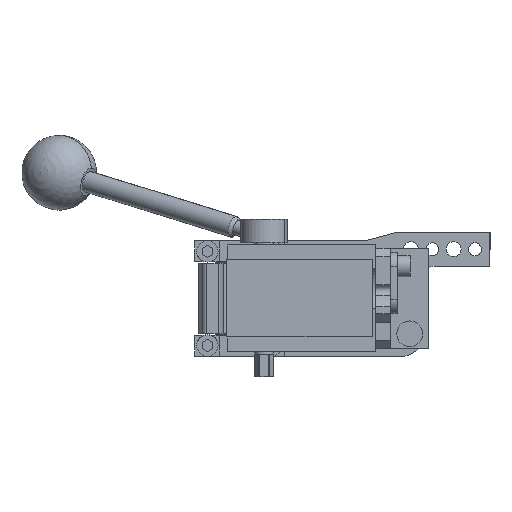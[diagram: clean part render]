
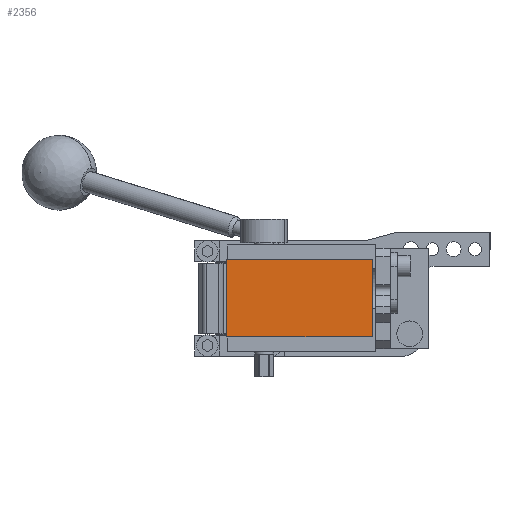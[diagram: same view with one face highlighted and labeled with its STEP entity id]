
A CAD part, front view. The second image highlights one B-rep face of the part: STEP entity #2356.
In plain terms, the highlighted planar face has unit normal (0, -1, 0).
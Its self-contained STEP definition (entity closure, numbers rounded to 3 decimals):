
#1246 = ORIENTED_EDGE ( 'NONE', *, *, #4953, .T. ) ;
#1653 = EDGE_CURVE ( 'NONE', #7684, #9483, #14083, .T. ) ;
#1829 = VERTEX_POINT ( 'NONE', #13334 ) ;
#2283 = PLANE ( 'NONE',  #12305 ) ;
#2356 = ADVANCED_FACE ( 'NONE', ( #15233 ), #2283, .T. ) ;
#2375 = CARTESIAN_POINT ( 'NONE',  ( 62., -233., -18. ) ) ;
#2541 = DIRECTION ( 'NONE',  ( 0., 0., 1. ) ) ;
#3161 = EDGE_CURVE ( 'NONE', #1829, #7684, #8746, .T. ) ;
#3522 = ORIENTED_EDGE ( 'NONE', *, *, #1653, .T. ) ;
#3551 = CARTESIAN_POINT ( 'NONE',  ( -6., -233., 18. ) ) ;
#3839 = VECTOR ( 'NONE', #2541, 1000. ) ;
#4250 = VECTOR ( 'NONE', #13850, 1000. ) ;
#4672 = DIRECTION ( 'NONE',  ( 0., -1., 0. ) ) ;
#4713 = CARTESIAN_POINT ( 'NONE',  ( -6., -233., -18. ) ) ;
#4953 = EDGE_CURVE ( 'NONE', #4968, #1829, #10135, .T. ) ;
#4968 = VERTEX_POINT ( 'NONE', #2375 ) ;
#5898 = DIRECTION ( 'NONE',  ( -1., 0., 0. ) ) ;
#6051 = LINE ( 'NONE', #4713, #4250 ) ;
#6082 = CARTESIAN_POINT ( 'NONE',  ( 0., -233., 0. ) ) ;
#6334 = VECTOR ( 'NONE', #5898, 1000. ) ;
#7077 = CARTESIAN_POINT ( 'NONE',  ( -6., -233., 18. ) ) ;
#7513 = DIRECTION ( 'NONE',  ( 0., 0., -1. ) ) ;
#7684 = VERTEX_POINT ( 'NONE', #7837 ) ;
#7837 = CARTESIAN_POINT ( 'NONE',  ( -6., -233., 18. ) ) ;
#8541 = ORIENTED_EDGE ( 'NONE', *, *, #9063, .T. ) ;
#8746 = LINE ( 'NONE', #3551, #6334 ) ;
#9063 = EDGE_CURVE ( 'NONE', #9483, #4968, #6051, .T. ) ;
#9483 = VERTEX_POINT ( 'NONE', #13914 ) ;
#10135 = LINE ( 'NONE', #15513, #3839 ) ;
#10497 = DIRECTION ( 'NONE',  ( 0., 0., -1. ) ) ;
#10576 = EDGE_LOOP ( 'NONE', ( #3522, #8541, #1246, #12766 ) ) ;
#12305 = AXIS2_PLACEMENT_3D ( 'NONE', #6082, #4672, #7513 ) ;
#12766 = ORIENTED_EDGE ( 'NONE', *, *, #3161, .T. ) ;
#13334 = CARTESIAN_POINT ( 'NONE',  ( 62., -233., 18. ) ) ;
#13850 = DIRECTION ( 'NONE',  ( 1., 0., 0. ) ) ;
#13914 = CARTESIAN_POINT ( 'NONE',  ( -6., -233., -18. ) ) ;
#14083 = LINE ( 'NONE', #7077, #14168 ) ;
#14168 = VECTOR ( 'NONE', #10497, 1000. ) ;
#15233 = FACE_OUTER_BOUND ( 'NONE', #10576, .T. ) ;
#15513 = CARTESIAN_POINT ( 'NONE',  ( 62., -233., 18. ) ) ;
